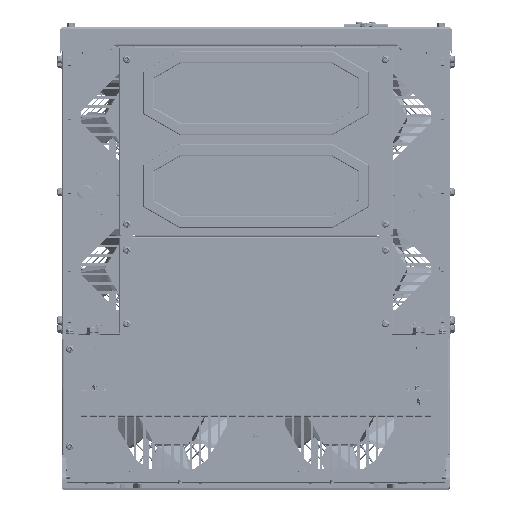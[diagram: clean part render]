
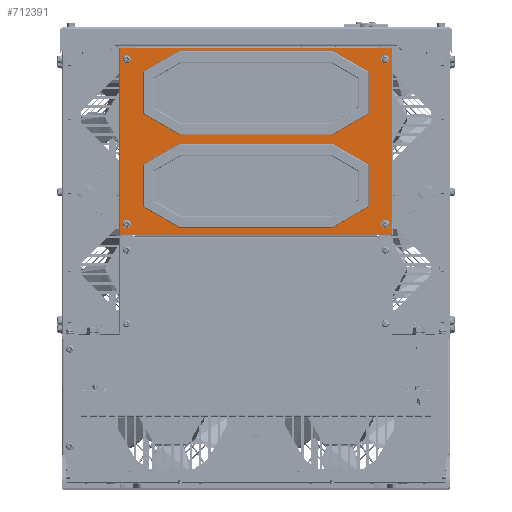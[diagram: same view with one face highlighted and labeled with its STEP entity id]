
A CAD part, top view. The second image highlights one B-rep face of the part: STEP entity #712391.
In plain terms, the highlighted planar face has unit normal (0, 0, 1).
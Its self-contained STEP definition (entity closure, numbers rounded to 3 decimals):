
#80549=LINE('',#1205787,#156387);
#80552=LINE('',#1205795,#156390);
#80554=LINE('',#1205802,#156392);
#80555=LINE('',#1205804,#156393);
#80556=LINE('',#1205806,#156394);
#80557=LINE('',#1205808,#156395);
#80558=LINE('',#1205810,#156396);
#80559=LINE('',#1205812,#156397);
#80560=LINE('',#1205814,#156398);
#80561=LINE('',#1205815,#156399);
#80562=LINE('',#1205818,#156400);
#80563=LINE('',#1205822,#156401);
#156387=VECTOR('',#924970,180.);
#156390=VECTOR('',#924979,180.);
#156392=VECTOR('',#924987,18.);
#156393=VECTOR('',#924988,221.95);
#156394=VECTOR('',#924989,18.);
#156395=VECTOR('',#924990,285.2);
#156396=VECTOR('',#924991,18.);
#156397=VECTOR('',#924992,221.95);
#156398=VECTOR('',#924993,18.);
#156399=VECTOR('',#924994,285.2);
#156400=VECTOR('',#924995,180.);
#156401=VECTOR('',#924998,180.);
#184170=FACE_BOUND('',#257791,.T.);
#184171=FACE_BOUND('',#257792,.T.);
#184172=FACE_BOUND('',#257793,.T.);
#184173=FACE_BOUND('',#257794,.T.);
#184174=FACE_BOUND('',#257795,.T.);
#184175=FACE_BOUND('',#257796,.T.);
#214679=FACE_OUTER_BOUND('',#257790,.T.);
#257790=EDGE_LOOP('',(#607776,#607777,#607778,#607779,#607780,#607781,#607782,
#607783));
#257791=EDGE_LOOP('',(#607784,#607785,#607786,#607787));
#257792=EDGE_LOOP('',(#607788,#607789,#607790,#607791));
#257793=EDGE_LOOP('',(#607792));
#257794=EDGE_LOOP('',(#607793));
#257795=EDGE_LOOP('',(#607794));
#257796=EDGE_LOOP('',(#607795));
#281840=CIRCLE('',#766769,40.);
#281841=CIRCLE('',#766772,40.);
#281842=CIRCLE('',#766774,40.);
#281843=CIRCLE('',#766775,40.);
#281844=CIRCLE('',#766776,2.75);
#281845=CIRCLE('',#766777,2.75);
#281846=CIRCLE('',#766778,2.75);
#281847=CIRCLE('',#766779,2.75);
#337336=VERTEX_POINT('',#1205784);
#337337=VERTEX_POINT('',#1205786);
#337338=VERTEX_POINT('',#1205790);
#337339=VERTEX_POINT('',#1205794);
#337340=VERTEX_POINT('',#1205800);
#337341=VERTEX_POINT('',#1205801);
#337342=VERTEX_POINT('',#1205803);
#337343=VERTEX_POINT('',#1205805);
#337344=VERTEX_POINT('',#1205807);
#337345=VERTEX_POINT('',#1205809);
#337346=VERTEX_POINT('',#1205811);
#337347=VERTEX_POINT('',#1205813);
#337348=VERTEX_POINT('',#1205816);
#337349=VERTEX_POINT('',#1205817);
#337350=VERTEX_POINT('',#1205819);
#337351=VERTEX_POINT('',#1205821);
#337352=VERTEX_POINT('',#1205824);
#337353=VERTEX_POINT('',#1205826);
#337354=VERTEX_POINT('',#1205828);
#337355=VERTEX_POINT('',#1205830);
#429250=EDGE_CURVE('',#337337,#337336,#80549,.T.);
#429252=EDGE_CURVE('',#337337,#337338,#281840,.T.);
#429254=EDGE_CURVE('',#337339,#337338,#80552,.T.);
#429256=EDGE_CURVE('',#337339,#337336,#281841,.T.);
#429257=EDGE_CURVE('',#337340,#337341,#80554,.T.);
#429258=EDGE_CURVE('',#337342,#337340,#80555,.T.);
#429259=EDGE_CURVE('',#337343,#337342,#80556,.T.);
#429260=EDGE_CURVE('',#337344,#337343,#80557,.T.);
#429261=EDGE_CURVE('',#337344,#337345,#80558,.T.);
#429262=EDGE_CURVE('',#337346,#337345,#80559,.T.);
#429263=EDGE_CURVE('',#337346,#337347,#80560,.T.);
#429264=EDGE_CURVE('',#337341,#337347,#80561,.T.);
#429265=EDGE_CURVE('',#337348,#337349,#80562,.T.);
#429266=EDGE_CURVE('',#337350,#337349,#281842,.T.);
#429267=EDGE_CURVE('',#337350,#337351,#80563,.T.);
#429268=EDGE_CURVE('',#337348,#337351,#281843,.T.);
#429269=EDGE_CURVE('',#337352,#337352,#281844,.T.);
#429270=EDGE_CURVE('',#337353,#337353,#281845,.T.);
#429271=EDGE_CURVE('',#337354,#337354,#281846,.T.);
#429272=EDGE_CURVE('',#337355,#337355,#281847,.T.);
#607776=ORIENTED_EDGE('',*,*,#429257,.F.);
#607777=ORIENTED_EDGE('',*,*,#429258,.F.);
#607778=ORIENTED_EDGE('',*,*,#429259,.F.);
#607779=ORIENTED_EDGE('',*,*,#429260,.F.);
#607780=ORIENTED_EDGE('',*,*,#429261,.T.);
#607781=ORIENTED_EDGE('',*,*,#429262,.F.);
#607782=ORIENTED_EDGE('',*,*,#429263,.T.);
#607783=ORIENTED_EDGE('',*,*,#429264,.F.);
#607784=ORIENTED_EDGE('',*,*,#429265,.T.);
#607785=ORIENTED_EDGE('',*,*,#429266,.F.);
#607786=ORIENTED_EDGE('',*,*,#429267,.T.);
#607787=ORIENTED_EDGE('',*,*,#429268,.F.);
#607788=ORIENTED_EDGE('',*,*,#429250,.T.);
#607789=ORIENTED_EDGE('',*,*,#429256,.F.);
#607790=ORIENTED_EDGE('',*,*,#429254,.T.);
#607791=ORIENTED_EDGE('',*,*,#429252,.F.);
#607792=ORIENTED_EDGE('',*,*,#429269,.F.);
#607793=ORIENTED_EDGE('',*,*,#429270,.F.);
#607794=ORIENTED_EDGE('',*,*,#429271,.F.);
#607795=ORIENTED_EDGE('',*,*,#429272,.F.);
#676091=PLANE('',#766773);
#712391=ADVANCED_FACE('',(#214679,#184170,#184171,#184172,#184173,#184174,
#184175),#676091,.T.);
#766769=AXIS2_PLACEMENT_3D('',#1205791,#924974,#924975);
#766772=AXIS2_PLACEMENT_3D('',#1205798,#924983,#924984);
#766773=AXIS2_PLACEMENT_3D('',#1205799,#924985,#924986);
#766774=AXIS2_PLACEMENT_3D('',#1205820,#924996,#924997);
#766775=AXIS2_PLACEMENT_3D('',#1205823,#924999,#925000);
#766776=AXIS2_PLACEMENT_3D('',#1205825,#925001,#925002);
#766777=AXIS2_PLACEMENT_3D('',#1205827,#925003,#925004);
#766778=AXIS2_PLACEMENT_3D('',#1205829,#925005,#925006);
#766779=AXIS2_PLACEMENT_3D('',#1205831,#925007,#925008);
#924970=DIRECTION('',(1.,0.,0.));
#924974=DIRECTION('center_axis',(0.,0.,1.));
#924975=DIRECTION('ref_axis',(0.,1.,0.));
#924979=DIRECTION('',(-1.,0.,0.));
#924983=DIRECTION('center_axis',(0.,0.,1.));
#924984=DIRECTION('ref_axis',(0.,-1.,0.));
#924985=DIRECTION('center_axis',(0.,0.,1.));
#924986=DIRECTION('ref_axis',(1.,0.,0.));
#924987=DIRECTION('',(1.,0.,0.));
#924988=DIRECTION('',(0.,1.,0.));
#924989=DIRECTION('',(-1.,0.,0.));
#924990=DIRECTION('',(-1.,0.,0.));
#924991=DIRECTION('',(1.,0.,0.));
#924992=DIRECTION('',(0.,-1.,0.));
#924993=DIRECTION('',(-1.,0.,0.));
#924994=DIRECTION('',(1.,0.,0.));
#924995=DIRECTION('',(1.,0.,0.));
#924996=DIRECTION('center_axis',(0.,0.,1.));
#924997=DIRECTION('ref_axis',(0.,-1.,0.));
#924998=DIRECTION('',(-1.,0.,0.));
#924999=DIRECTION('center_axis',(0.,0.,1.));
#925000=DIRECTION('ref_axis',(0.,1.,0.));
#925001=DIRECTION('center_axis',(0.,0.,1.));
#925002=DIRECTION('ref_axis',(-1.,0.,0.));
#925003=DIRECTION('center_axis',(0.,0.,1.));
#925004=DIRECTION('ref_axis',(-1.,0.,0.));
#925005=DIRECTION('center_axis',(0.,0.,1.));
#925006=DIRECTION('ref_axis',(-1.,0.,0.));
#925007=DIRECTION('center_axis',(0.,0.,1.));
#925008=DIRECTION('ref_axis',(-1.,0.,0.));
#1205784=CARTESIAN_POINT('',(90.,397.5,661.2));
#1205786=CARTESIAN_POINT('',(-90.,397.5,661.2));
#1205787=CARTESIAN_POINT('',(-90.,397.5,661.2));
#1205790=CARTESIAN_POINT('',(-90.,317.5,661.2));
#1205791=CARTESIAN_POINT('Origin',(-90.,357.5,661.2));
#1205794=CARTESIAN_POINT('',(90.,317.5,661.2));
#1205795=CARTESIAN_POINT('',(90.,317.5,661.2));
#1205798=CARTESIAN_POINT('Origin',(90.,357.5,661.2));
#1205799=CARTESIAN_POINT('Origin',(0.,0.,661.2));
#1205800=CARTESIAN_POINT('',(-160.6,520.85,661.2));
#1205801=CARTESIAN_POINT('',(-142.6,520.85,661.2));
#1205802=CARTESIAN_POINT('',(-160.6,520.85,661.2));
#1205803=CARTESIAN_POINT('',(-160.6,298.9,661.2));
#1205804=CARTESIAN_POINT('',(-160.6,298.9,661.2));
#1205805=CARTESIAN_POINT('',(-142.6,298.9,661.2));
#1205806=CARTESIAN_POINT('',(-142.6,298.9,661.2));
#1205807=CARTESIAN_POINT('',(142.6,298.9,661.2));
#1205808=CARTESIAN_POINT('',(142.6,298.9,661.2));
#1205809=CARTESIAN_POINT('',(160.6,298.9,661.2));
#1205810=CARTESIAN_POINT('',(142.6,298.9,661.2));
#1205811=CARTESIAN_POINT('',(160.6,520.85,661.2));
#1205812=CARTESIAN_POINT('',(160.6,520.85,661.2));
#1205813=CARTESIAN_POINT('',(142.6,520.85,661.2));
#1205814=CARTESIAN_POINT('',(160.6,520.85,661.2));
#1205815=CARTESIAN_POINT('',(-142.6,520.85,661.2));
#1205816=CARTESIAN_POINT('',(-90.,507.5,661.2));
#1205817=CARTESIAN_POINT('',(90.,507.5,661.2));
#1205818=CARTESIAN_POINT('',(-90.,507.5,661.2));
#1205819=CARTESIAN_POINT('',(90.,427.5,661.2));
#1205820=CARTESIAN_POINT('Origin',(90.,467.5,661.2));
#1205821=CARTESIAN_POINT('',(-90.,427.5,661.2));
#1205822=CARTESIAN_POINT('',(90.,427.5,661.2));
#1205823=CARTESIAN_POINT('Origin',(-90.,467.5,661.2));
#1205824=CARTESIAN_POINT('',(155.75,507.25,661.2));
#1205825=CARTESIAN_POINT('Origin',(153.,507.25,661.2));
#1205826=CARTESIAN_POINT('',(155.75,312.5,661.2));
#1205827=CARTESIAN_POINT('Origin',(153.,312.5,661.2));
#1205828=CARTESIAN_POINT('',(-150.25,312.5,661.2));
#1205829=CARTESIAN_POINT('Origin',(-153.,312.5,661.2));
#1205830=CARTESIAN_POINT('',(-150.25,507.25,661.2));
#1205831=CARTESIAN_POINT('Origin',(-153.,507.25,661.2));
